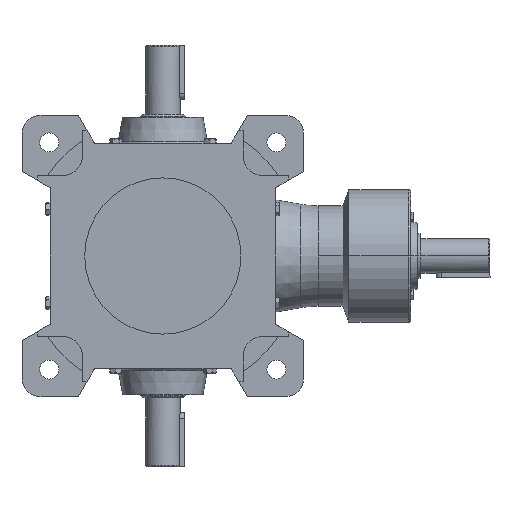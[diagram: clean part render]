
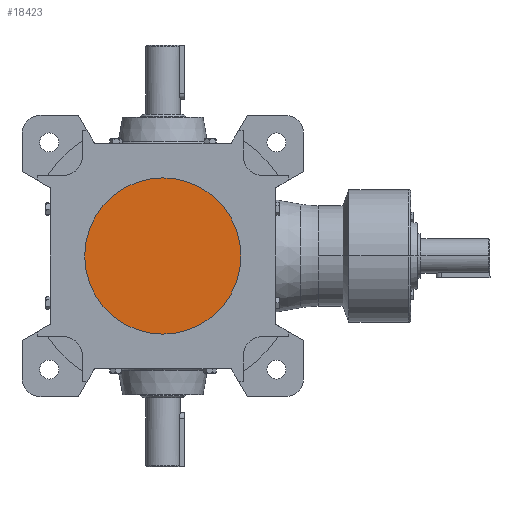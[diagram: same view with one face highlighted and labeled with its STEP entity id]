
A CAD part, front view. The second image highlights one B-rep face of the part: STEP entity #18423.
In plain terms, the highlighted planar face has unit normal (0, -1, 0).
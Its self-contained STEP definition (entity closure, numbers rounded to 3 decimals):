
#407 = DIRECTION ( 'NONE',  ( 0., 0., -1. ) ) ;
#1839 = DIRECTION ( 'NONE',  ( 0., -1., 0. ) ) ;
#2026 = ORIENTED_EDGE ( 'NONE', *, *, #9141, .T. ) ;
#2860 = CARTESIAN_POINT ( 'NONE',  ( 0., -64.1, -42.992 ) ) ;
#3423 = CARTESIAN_POINT ( 'NONE',  ( 0., -64.1, 0. ) ) ;
#5465 = ORIENTED_EDGE ( 'NONE', *, *, #9630, .T. ) ;
#6143 = FACE_OUTER_BOUND ( 'NONE', #10056, .T. ) ;
#7228 = AXIS2_PLACEMENT_3D ( 'NONE', #18205, #10951, #13711 ) ;
#9141 = EDGE_CURVE ( 'NONE', #11343, #15991, #11900, .T. ) ;
#9394 = CIRCLE ( 'NONE', #7228, 42.992 ) ;
#9630 = EDGE_CURVE ( 'NONE', #15991, #11343, #9394, .T. ) ;
#10056 = EDGE_LOOP ( 'NONE', ( #5465, #2026 ) ) ;
#10951 = DIRECTION ( 'NONE',  ( 0., -1., 0. ) ) ;
#11343 = VERTEX_POINT ( 'NONE', #13351 ) ;
#11900 = CIRCLE ( 'NONE', #13797, 42.992 ) ;
#11982 = DIRECTION ( 'NONE',  ( 0., 0., -1. ) ) ;
#12162 = PLANE ( 'NONE',  #15798 ) ;
#13351 = CARTESIAN_POINT ( 'NONE',  ( 0., -64.1, 42.992 ) ) ;
#13711 = DIRECTION ( 'NONE',  ( 0., 0., -1. ) ) ;
#13797 = AXIS2_PLACEMENT_3D ( 'NONE', #17829, #1839, #11982 ) ;
#15798 = AXIS2_PLACEMENT_3D ( 'NONE', #3423, #16500, #407 ) ;
#15991 = VERTEX_POINT ( 'NONE', #2860 ) ;
#16500 = DIRECTION ( 'NONE',  ( 0., -1., 0. ) ) ;
#17829 = CARTESIAN_POINT ( 'NONE',  ( 0., -64.1, 0. ) ) ;
#18205 = CARTESIAN_POINT ( 'NONE',  ( 0., -64.1, 0. ) ) ;
#18423 = ADVANCED_FACE ( 'NONE', ( #6143 ), #12162, .T. ) ;
